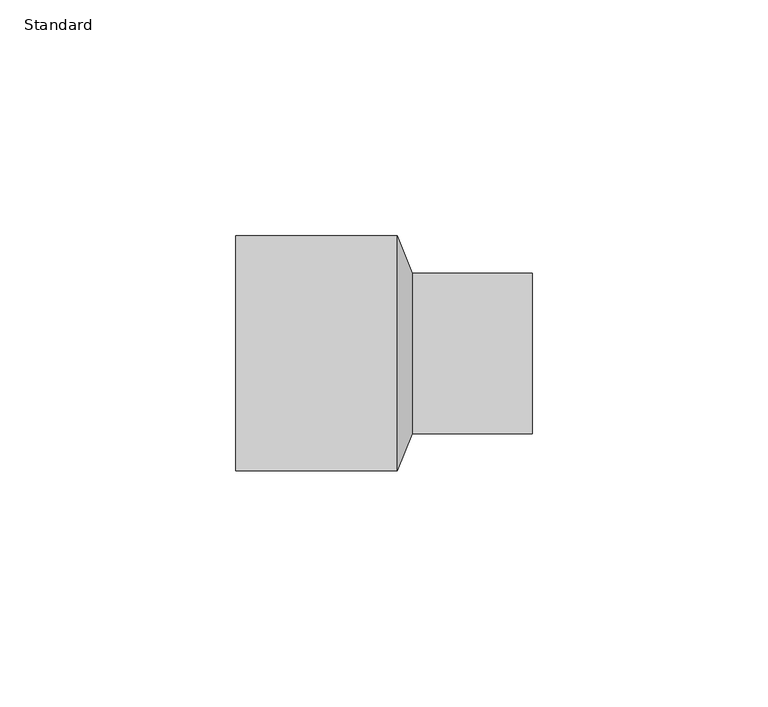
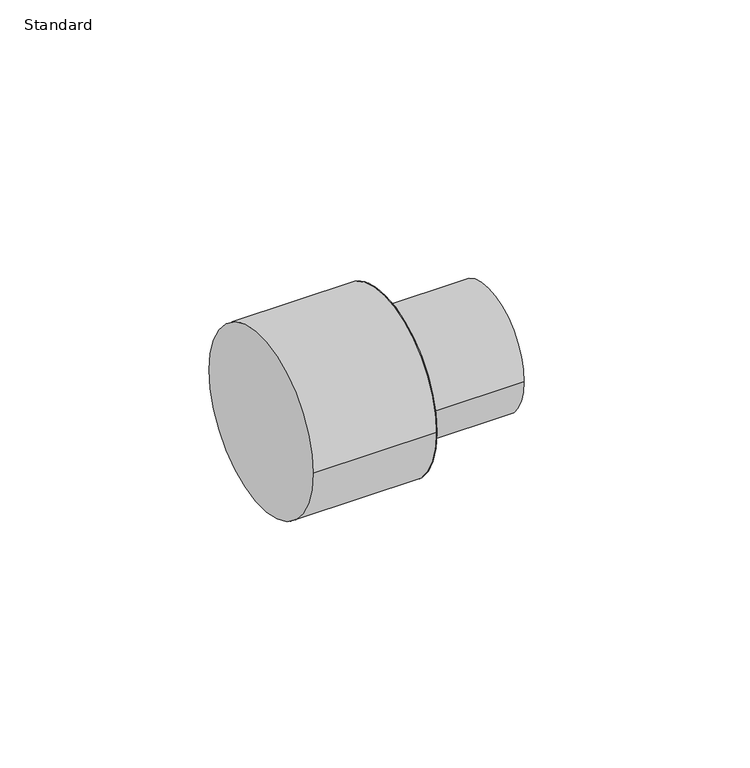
"""IFC4 building model written with IfcOpenShell, lengths in millimetres: pipe fitting geometry, M_Coupling Reducing - CPVC - Sch 40 : Standard."""

import ifcopenshell
import ifcopenshell.guid

model = None  # the IFC model being written
_history = None  # IfcOwnerHistory: only IFC2X3 demands one
_inside = {}  # id of a spatial element -> (the spatial element, [elements in it])
_under = {}  # id of a project, library or spatial element -> (it, [spatial elements below it])
_declared = {}  # id of a project -> (the project, [libraries it declares])
_typed = {}  # id of a type object -> (the type object, [elements of that type])
_made_of = {}  # id of a material, layer set ... -> (it, [elements and type objects made of it])


def new_model(schema):
    """Start an empty IFC model of exactly this schema.

    Asked for "IFC4X3", IfcOpenShell would pick the latest addendum, in which some entities
    have other attributes; the version numbers below select the first issue.
    IFC2X3 requires an IfcOwnerHistory on every rooted entity: one is made here for all.
    """
    global model, _history
    if schema == "IFC4X3":
        model = ifcopenshell.file(schema_version=(4, 3, 0, 0))
    else:
        model = ifcopenshell.file(schema=schema)
    _inside.clear()
    _under.clear()
    _declared.clear()
    _typed.clear()
    _made_of.clear()
    _history = None
    if model.schema == "IFC2X3":
        org = make("IfcOrganization", Name="unknown")
        user = make(
            "IfcPersonAndOrganization",
            ThePerson=make("IfcPerson", FamilyName="unknown"),
            TheOrganization=org,
        )
        app = make(
            "IfcApplication",
            ApplicationDeveloper=org,
            Version="unknown",
            ApplicationFullName="unknown",
            ApplicationIdentifier="unknown",
        )
        _history = make(
            "IfcOwnerHistory",
            OwningUser=user,
            OwningApplication=app,
            ChangeAction="ADDED",
            CreationDate=0,
        )
    return model


def make(cls, **values):
    """One entity of the class cls with the attributes given. An attribute that is None is left unset."""
    return model.create_entity(
        cls, **{name: value for name, value in values.items() if value is not None}
    )


def rooted(cls, **values):
    """An entity with a GlobalId (a new one), such as an element, a storey or a relation."""
    return make(cls, GlobalId=ifcopenshell.guid.new(), OwnerHistory=_history, **values)


def si_unit(unit_type, name, prefix=None):
    """IfcSIUnit, for example si_unit("LENGTHUNIT", "METRE", prefix="MILLI")."""
    return make("IfcSIUnit", UnitType=unit_type, Prefix=prefix, Name=name)


def assignment(units):
    """IfcUnitAssignment: the units of a project."""
    return None if units is None else make("IfcUnitAssignment", Units=units)


def point(xyz):
    """IfcCartesianPoint."""
    return None if xyz is None else make("IfcCartesianPoint", Coordinates=xyz)


def direction(xyz):
    """IfcDirection."""
    return None if xyz is None else make("IfcDirection", DirectionRatios=xyz)


def frame(location, z_axis=None, x_axis=None):
    """IfcAxis2Placement3D, a coordinate frame: its origin and axes. An axis left out is left unset."""
    return make(
        "IfcAxis2Placement3D",
        Location=point(location),
        Axis=direction(z_axis),
        RefDirection=direction(x_axis),
    )


def frame_2d(location, x_axis=None):
    """IfcAxis2Placement2D, a coordinate frame in the plane: its origin and x axis."""
    return make(
        "IfcAxis2Placement2D", Location=point(location), RefDirection=direction(x_axis)
    )


def origin():
    """The frame at (0, 0, 0) with its axes left unset."""
    return frame((0.0, 0.0, 0.0))


def origin_2d():
    """The frame at (0, 0) in the plane with its x axis left unset."""
    return frame_2d((0.0, 0.0))


def place(relative_to, where):
    """IfcLocalPlacement: puts the frame where relative to a parent placement (None: the world)."""
    return make(
        "IfcLocalPlacement", PlacementRelTo=relative_to, RelativePlacement=where
    )


def context(
    kind, dimensions, precision=None, world=None, true_north=None, identifier=None
):
    """IfcGeometricRepresentationContext, for example the 3D "Model" context."""
    return make(
        "IfcGeometricRepresentationContext",
        ContextIdentifier=identifier,
        ContextType=kind,
        CoordinateSpaceDimension=dimensions,
        Precision=precision,
        WorldCoordinateSystem=world,
        TrueNorth=true_north,
    )


def project(units=None, contexts=None):
    """IfcProject with its units and contexts."""
    return rooted(
        "IfcProject",
        Name="project",
        RepresentationContexts=contexts,
        UnitsInContext=assignment(units),
    )


def spatial(cls, under=None, at=None, **own):
    """A site, building, storey or space (cls), placed at a placement, below another one or the project."""
    s = rooted(cls, ObjectPlacement=at, **own)
    if under is not None:
        _under.setdefault(under.id(), (under, []))[1].append(s)
    return s


def polyline(points):
    """IfcPolyline through the points."""
    return make("IfcPolyline", Points=[point(p) for p in points])


def circle_curve(where, radius):
    """IfcCircle in the frame where."""
    return make("IfcCircle", Position=where, Radius=radius)


def trimmed(basis, trim1, trim2, sense, master):
    """IfcTrimmedCurve: the piece of a basis curve between two trims."""
    return make(
        "IfcTrimmedCurve",
        BasisCurve=basis,
        Trim1=trim1,
        Trim2=trim2,
        SenseAgreement=sense,
        MasterRepresentation=master,
    )


def segment(curve, same_sense, transition):
    """IfcCompositeCurveSegment."""
    return make(
        "IfcCompositeCurveSegment",
        Transition=transition,
        SameSense=same_sense,
        ParentCurve=curve,
    )


def composite_curve(segments, self_intersect=None):
    """IfcCompositeCurve: segments joined end to end."""
    return make("IfcCompositeCurve", Segments=segments, SelfIntersect=self_intersect)


def outline(outer, holes=None, kind="AREA"):
    """IfcArbitraryClosedProfileDef: a profile drawn as a closed curve; with holes, ...WithVoids."""
    if holes is None:
        return make("IfcArbitraryClosedProfileDef", ProfileType=kind, OuterCurve=outer)
    return make(
        "IfcArbitraryProfileDefWithVoids",
        ProfileType=kind,
        OuterCurve=outer,
        InnerCurves=holes,
    )


def extrude(swept, where, along, depth):
    """IfcExtrudedAreaSolid: the profile swept, set in the frame where, extruded along a direction by depth."""
    return make(
        "IfcExtrudedAreaSolid",
        SweptArea=swept,
        Position=where,
        ExtrudedDirection=direction(along),
        Depth=depth,
    )


def shape(context_of_items, identifier, shape_type, items):
    """IfcShapeRepresentation: the items that make up one representation, for example the "Body"."""
    return make(
        "IfcShapeRepresentation",
        ContextOfItems=context_of_items,
        RepresentationIdentifier=identifier,
        RepresentationType=shape_type,
        Items=items,
    )


def source(mapping_origin, context_of_items, identifier, shape_type, items):
    """IfcRepresentationMap: a shape defined once, which mapped items show again and again."""
    return make(
        "IfcRepresentationMap",
        MappingOrigin=mapping_origin,
        MappedRepresentation=shape(context_of_items, identifier, shape_type, items),
    )


def transform(
    local_origin,
    x_axis=None,
    y_axis=None,
    z_axis=None,
    scale=None,
    scale2=None,
    scale3=None,
    uniform=True,
):
    """IfcCartesianTransformationOperator3D, or its non-uniform kind. x_axis, y_axis, z_axis: its Axis1, 2, 3."""
    if uniform:
        return make(
            "IfcCartesianTransformationOperator3D",
            Axis1=direction(x_axis),
            Axis2=direction(y_axis),
            LocalOrigin=point(local_origin),
            Scale=scale,
            Axis3=direction(z_axis),
        )
    return make(
        "IfcCartesianTransformationOperator3DnonUniform",
        Axis1=direction(x_axis),
        Axis2=direction(y_axis),
        LocalOrigin=point(local_origin),
        Scale=scale,
        Axis3=direction(z_axis),
        Scale2=scale2,
        Scale3=scale3,
    )


def mapped(mapping_source, mapping_target):
    """IfcMappedItem: shows the shape of a source again, moved by a transform."""
    return make(
        "IfcMappedItem", MappingSource=mapping_source, MappingTarget=mapping_target
    )


def made_of(thing, what):
    """Note that an element or type object is made of a material, layer set ...; save() writes the relation."""
    if what is not None:
        _made_of.setdefault(what.id(), (what, []))[1].append(thing)
    return thing


def element(
    cls,
    number,
    at=None,
    inside=None,
    cuts=None,
    type_object=None,
    material=None,
    context=None,
    identifier="Body",
    shape_type=None,
    held_by="IfcProductDefinitionShape",
    body=None,
    shapes=None,
    **own,
):
    """One element of the class cls, such as IfcWall. Its Tag is "e" and its number.

    at: its placement. inside: the storey or other place that contains it. cuts: it is an
    opening in that element (IfcRelVoidsElement). A single representation is given by context,
    identifier, shape_type and body (its items); several are given by shapes. held_by: the class
    of the entity that holds the representations. save() writes the other relations.
    """
    e = rooted(cls, Tag="e%d" % number, ObjectPlacement=at, **own)
    if body is not None:
        shapes = [shape(context, identifier, shape_type, body)]
    if shapes is not None:
        e.Representation = make(held_by, Representations=shapes)
    if inside is not None:
        _inside.setdefault(inside.id(), (inside, []))[1].append(e)
    if cuts is not None:
        rooted(
            "IfcRelVoidsElement", RelatingBuildingElement=cuts, RelatedOpeningElement=e
        )
    if type_object is not None:
        _typed.setdefault(type_object.id(), (type_object, []))[1].append(e)
    return made_of(e, material)


def aggregate(whole, parts):
    """IfcRelAggregates: a whole, such as a stair, and the parts it consists of."""
    return rooted("IfcRelAggregates", RelatingObject=whole, RelatedObjects=parts)


def save(model, path):
    """Write the relations noted so far, then the file.

    IfcRelAggregates (storeys below a building ...), IfcRelContainedInSpatialStructure (elements
    in a storey), IfcRelDefinesByType, IfcRelAssociatesMaterial and IfcRelDeclares: one each for
    every whole, place, type object, material and project.
    """
    for whole, parts in _under.values():
        aggregate(whole, parts)
    for where, things in _inside.values():
        rooted(
            "IfcRelContainedInSpatialStructure",
            RelatedElements=things,
            RelatingStructure=where,
        )
    for kind, things in _typed.values():
        rooted("IfcRelDefinesByType", RelatedObjects=things, RelatingType=kind)
    for what, things in _made_of.values():
        rooted("IfcRelAssociatesMaterial", RelatedObjects=things, RelatingMaterial=what)
    for by, libraries in _declared.values():
        rooted("IfcRelDeclares", RelatingContext=by, RelatedDefinitions=libraries)
    model.write(path)


def plane_surface(at):
    """IfcPlane: the flat surface through the origin of the frame at, square to its z axis."""
    return make("IfcPlane", Position=at)


def revolved_surface(curve, axis_point, axis_direction):
    """IfcSurfaceOfRevolution: the curve turned about the line through axis_point along axis_direction."""
    return make(
        "IfcSurfaceOfRevolution",
        SweptCurve=make("IfcArbitraryOpenProfileDef", ProfileType="CURVE", Curve=curve),
        AxisPosition=make("IfcAxis1Placement", Location=point(axis_point), Axis=direction(axis_direction)),
    )


def advanced_brep(points, edges, surfaces, faces):
    """IfcAdvancedBrep: a solid bounded by faces that lie on surfaces and meet in shared edges.

    An edge is (start, end): straight between two places in points (the first is 0);
    or (start, end, curve); or (start, end, curve, False) where it runs against its curve.
    A face is (place in surfaces, loops), or (place, loops, False) where it looks against
    its surface's normal. A loop lists edges by number (the first is 1), with a minus sign
    where the edge is run from its end to its start. The first loop is the outer one.
    """
    corners = [point(p) for p in points]
    vertices = [make("IfcVertexPoint", VertexGeometry=c) for c in corners]
    made = []
    for start, end, *more in edges:
        made.append(
            make(
                "IfcEdgeCurve",
                EdgeStart=vertices[start],
                EdgeEnd=vertices[end],
                EdgeGeometry=more[0] if more else make("IfcPolyline", Points=[corners[start], corners[end]]),
                SameSense=more[1] if len(more) > 1 else True,
            )
        )
    hull = []
    for where, loops, *sense in faces:
        bounds = []
        for j, loop in enumerate(loops):
            ring = [make("IfcOrientedEdge", EdgeElement=made[abs(k) - 1], Orientation=k > 0) for k in loop]
            bounds.append(
                make(
                    "IfcFaceOuterBound" if j == 0 else "IfcFaceBound",
                    Bound=make("IfcEdgeLoop", EdgeList=ring),
                    Orientation=True,
                )
            )
        hull.append(make("IfcAdvancedFace", Bounds=bounds, FaceSurface=surfaces[where], SameSense=sense[0] if sense else True))
    return make("IfcAdvancedBrep", Outer=make("IfcClosedShell", CfsFaces=hull))


def standard_83629b21(model_context):
    return source(origin(), model_context, "Body", "SolidModel", [
        advanced_brep(
        [(37.416875, -17.018, 0.0), (37.416875, 17.018, 0.0), (34.241875, -24.9149219, 0.0), (34.241875, 24.9149219, 0.0)],
        [
            (0, 1, circle_curve(frame((37.416875, 0.0, 0.0), z_axis=(1.0, -4.273914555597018e-12, 0.0), x_axis=(-4.2739423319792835e-12, -1.0, 0.0)), 17.018)),
            (1, 0, circle_curve(frame((37.416875, 0.0, 0.0), z_axis=(1.0, -4.273914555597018e-12, 0.0), x_axis=(4.273942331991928e-12, 1.0, 0.0)), 17.018)),
            (2, 3, circle_curve(frame((34.241875, 0.0, 0.0), z_axis=(-1.0, 4.273914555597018e-12, 0.0), x_axis=(4.273942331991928e-12, 1.0, 0.0)), 24.9149219)),
            (3, 2, circle_curve(frame((34.241875, 0.0, 0.0), z_axis=(-1.0, 4.273914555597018e-12, 0.0), x_axis=(-4.2739423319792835e-12, -1.0, 0.0)), 24.9149219)),
            (3, 1),
            (0, 2),
        ],
        [
            plane_surface(frame((37.416875, 0.0, 0.0), z_axis=(1.0, 0.0, 0.0), x_axis=(0.0, 0.0, -1.0))),
            plane_surface(frame((34.241875, 0.0, 0.0), z_axis=(-1.0, 0.0, 0.0), x_axis=(0.0, 0.0, -1.0))),
            revolved_surface(polyline([(37.416875, -17.018000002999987, 0.0), (34.24187499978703, -24.9149219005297, 0.0)]), (44.2590536, 0.0, 0.0), (-1.0, 4.273914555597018e-12, 0.0)),
            revolved_surface(polyline([(37.41687500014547, 17.018000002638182, 0.0), (34.241875, 24.9149219, 0.0)]), (44.2590536, 0.0, 0.0), (-1.0, 4.273914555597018e-12, 0.0)),
        ],
        [
            (0, [[1, 2]]),
            (1, [[3, 4]]),
            (2, [[-4, 5, -1, 6]]),
            (3, [[-3, -6, -2, -5]]),
        ],
    ),
        extrude(outline(composite_curve([segment(trimmed(circle_curve(origin_2d(), 17.018), [point((-17.018, 0.0))], [point((17.018, 0.0))], False, "CARTESIAN"), True, "CONTINUOUS"), segment(trimmed(circle_curve(origin_2d(), 17.018), [point((17.018, 0.0))], [point((-17.018, 0.0))], False, "CARTESIAN"), True, "CONTINUOUS")], self_intersect=False)), frame((37.416875, 0.0, 0.0), z_axis=(1.0, 0.0, 0.0), x_axis=(0.0, 1.0, 0.0)), (0.0, 0.0, 1.0), 25.4),
        extrude(outline(composite_curve([segment(trimmed(circle_curve(origin_2d(), 24.9149219), [point((-24.9149219, 0.0))], [point((24.9149219, 0.0))], False, "CARTESIAN"), True, "CONTINUOUS"), segment(trimmed(circle_curve(origin_2d(), 24.9149219), [point((24.9149219, 0.0))], [point((-24.9149219, 0.0))], False, "CARTESIAN"), True, "CONTINUOUS")], self_intersect=False)), frame((0.0, 0.0, 0.0), z_axis=(1.0, 0.0, 0.0), x_axis=(0.0, 1.0, 0.0)), (0.0, 0.0, 1.0), 34.241875),
    ])


if __name__ == "__main__":
    model = new_model("IFC4")
    model_context = context("Model", 3, world=origin())
    ifc_project = project(units=[si_unit("LENGTHUNIT", "METRE", prefix="MILLI")], contexts=[model_context])
    site = spatial("IfcSite", under=ifc_project)
    building = spatial("IfcBuilding", under=site)
    placement = place(None, origin())
    standard_shape = standard_83629b21(model_context)
    element("IfcPipeFitting", 1, ObjectType="M_Coupling Reducing - CPVC - Sch 40 : Standard", at=placement, inside=building, context=model_context, shape_type="MappedRepresentation", body=[
        mapped(standard_shape, transform((0.0, 0.0, 0.0), x_axis=(1.0, 0.0, 0.0), y_axis=(0.0, 1.0, 0.0), z_axis=(0.0, 0.0, 1.0))),
    ])
    save(model, "model.ifc")
